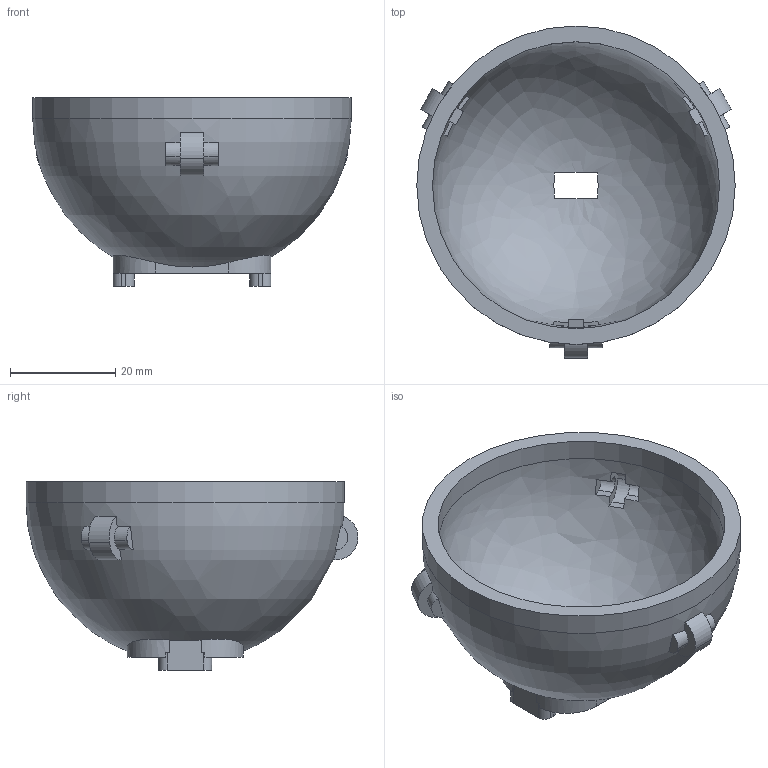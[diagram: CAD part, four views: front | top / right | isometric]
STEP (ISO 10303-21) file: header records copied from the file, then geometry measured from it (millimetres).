
FILE_DESCRIPTION(('Open CASCADE Model'),'2;1');
FILE_NAME('Open CASCADE Shape Model','2026-05-31T19:43:59',('Author'),( 'Open CASCADE'),'Open CASCADE STEP processor 7.6','Open CASCADE 7.6' ,'Unknown');
FILE_SCHEMA(('AP242_MANAGED_MODEL_BASED_3D_ENGINEERING_MIM_LF. {1 0 10303 442 1 1 4 }'));
Length unit declared in the file: millimetre
Products named in the file (1): Open CASCADE STEP translator 7.6 11
Bounding box: 60.5 x 63.04 x 35.85 mm (x, y, z)
Volume: 17910.4 mm3; surface area: 13407.5 mm2
Topology: 1 solids, 1 shells, 140 faces, 392 edges, 260 vertices
Faces by surface type: plane 74, extrusion 36, cylinder 22, bspline 4, revolution 2, cone 2
Full cylindrical faces by diameter (mm): 2.05 x2, 54.5 x1, 60.5 x1
Entity records: 19480 total; most frequent: CARTESIAN_POINT 12059, DIRECTION 1248, ORIENTED_EDGE 780, PCURVE 780, DEFINITIONAL_REPRESENTATION 780, VECTOR 658, LINE 622, EDGE_CURVE 390
